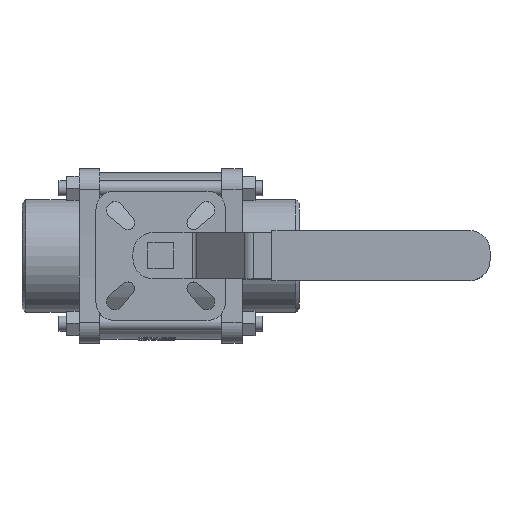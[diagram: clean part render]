
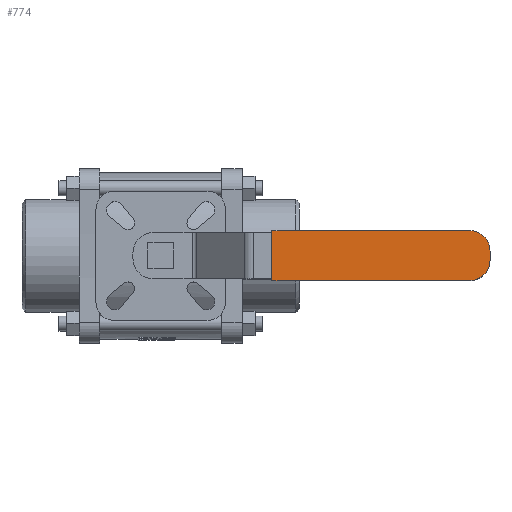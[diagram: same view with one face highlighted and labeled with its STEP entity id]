
A CAD part, top view. The second image highlights one B-rep face of the part: STEP entity #774.
In plain terms, the highlighted planar face has unit normal (0, 0, 1).
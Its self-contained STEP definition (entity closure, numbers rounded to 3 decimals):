
#774 = ADVANCED_FACE( '', ( #1675 ), #1676, .F. );
#1675 = FACE_OUTER_BOUND( '', #5152, .T. );
#1676 = PLANE( '', #5153 );
#5152 = EDGE_LOOP( '', ( #7620, #7621, #7622, #7623, #7624, #7625 ) );
#5153 = AXIS2_PLACEMENT_3D( '', #7626, #7627, #7628 );
#7620 = ORIENTED_EDGE( '', *, *, #8890, .T. );
#7621 = ORIENTED_EDGE( '', *, *, #8955, .T. );
#7622 = ORIENTED_EDGE( '', *, *, #8956, .T. );
#7623 = ORIENTED_EDGE( '', *, *, #8957, .F. );
#7624 = ORIENTED_EDGE( '', *, *, #8157, .F. );
#7625 = ORIENTED_EDGE( '', *, *, #8958, .T. );
#7626 = CARTESIAN_POINT( '', ( 178., -13.5, 34. ) );
#7627 = DIRECTION( '', ( 0., 0., -1. ) );
#7628 = DIRECTION( '', ( -1., 0., 0. ) );
#8157 = EDGE_CURVE( '', #9149, #9151, #9152, .T. );
#8890 = EDGE_CURVE( '', #10278, #10276, #10279, .T. );
#8955 = EDGE_CURVE( '', #10276, #10355, #10356, .F. );
#8956 = EDGE_CURVE( '', #10355, #10357, #10358, .T. );
#8957 = EDGE_CURVE( '', #9151, #10357, #10359, .T. );
#8958 = EDGE_CURVE( '', #9149, #10278, #10360, .F. );
#9149 = VERTEX_POINT( '', #10784 );
#9151 = VERTEX_POINT( '', #10787 );
#9152 = LINE( '', #10788, #10789 );
#10276 = VERTEX_POINT( '', #14952 );
#10278 = VERTEX_POINT( '', #14955 );
#10279 = LINE( '', #14956, #14957 );
#10355 = VERTEX_POINT( '', #15191 );
#10356 = CIRCLE( '', #15192, 11. );
#10357 = VERTEX_POINT( '', #15193 );
#10358 = LINE( '', #15194, #15195 );
#10359 = LINE( '', #15196, #15197 );
#10360 = CIRCLE( '', #15198, 11. );
#10784 = CARTESIAN_POINT( '', ( 167., -13.5, 34. ) );
#10787 = CARTESIAN_POINT( '', ( 60.142, -13.5, 34. ) );
#10788 = CARTESIAN_POINT( '', ( 178., -13.5, 34. ) );
#10789 = VECTOR( '', #15363, 1000. );
#14952 = CARTESIAN_POINT( '', ( 178., 2.5, 34. ) );
#14955 = CARTESIAN_POINT( '', ( 178., -2.5, 34. ) );
#14956 = CARTESIAN_POINT( '', ( 178., -13.5, 34. ) );
#14957 = VECTOR( '', #15843, 1000. );
#15191 = CARTESIAN_POINT( '', ( 167., 13.5, 34. ) );
#15192 = AXIS2_PLACEMENT_3D( '', #15881, #15882, #15883 );
#15193 = CARTESIAN_POINT( '', ( 60.142, 13.5, 34. ) );
#15194 = CARTESIAN_POINT( '', ( 178., 13.5, 34. ) );
#15195 = VECTOR( '', #15884, 1000. );
#15196 = CARTESIAN_POINT( '', ( 60.142, -13.5, 34. ) );
#15197 = VECTOR( '', #15885, 1000. );
#15198 = AXIS2_PLACEMENT_3D( '', #15886, #15887, #15888 );
#15363 = DIRECTION( '', ( -1., 0., 0. ) );
#15843 = DIRECTION( '', ( 0., 1., 0. ) );
#15881 = CARTESIAN_POINT( '', ( 167., 2.5, 34. ) );
#15882 = DIRECTION( '', ( 0., 0., -1. ) );
#15883 = DIRECTION( '', ( -1., 0., 0. ) );
#15884 = DIRECTION( '', ( -1., 0., 0. ) );
#15885 = DIRECTION( '', ( 0., 1., 0. ) );
#15886 = CARTESIAN_POINT( '', ( 167., -2.5, 34. ) );
#15887 = DIRECTION( '', ( 0., 0., -1. ) );
#15888 = DIRECTION( '', ( -1., 0., 0. ) );
